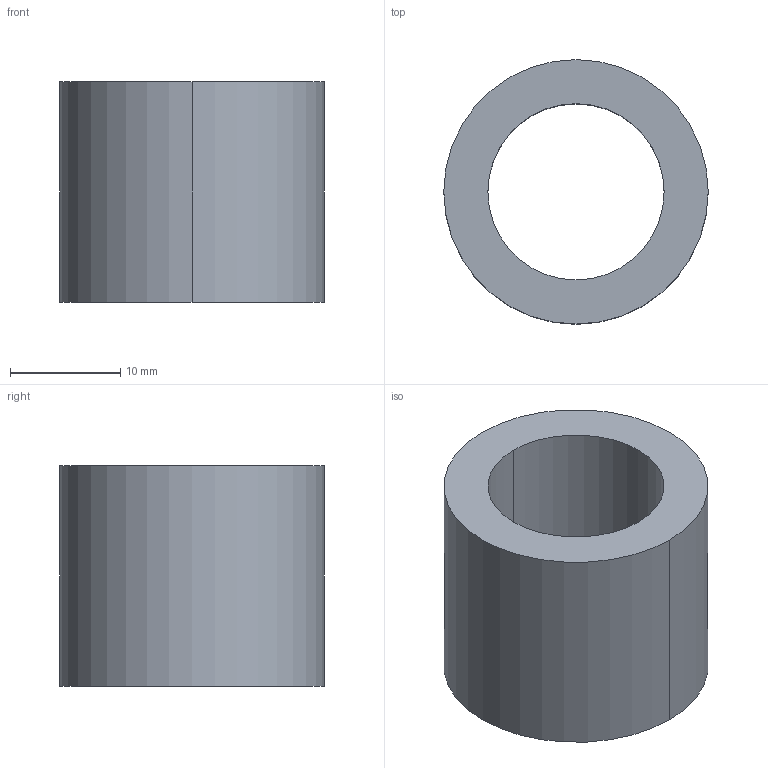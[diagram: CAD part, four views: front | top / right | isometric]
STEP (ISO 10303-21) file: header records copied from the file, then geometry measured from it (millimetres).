
FILE_DESCRIPTION(/* description */ (''),/* implementation_level */ '2;1');
FILE_NAME(/* name */ '3d_tgbm16-20_00321_r00.stp',/* time_stamp */ '2011-01-10T14:09:03+09:00',/* author */ ('MISUMI'),/* organization */ (''),/* preprocessor_version */ 'ST-DEVELOPER v11',/* originating_system */ 'UGS - NX 5.0',/* authorisation */ '');
FILE_SCHEMA (('CONFIG_CONTROL_DESIGN'));
Length unit declared in the file: millimetre
Products named in the file (1): 3d_tgbm16-20_00321_r00
Bounding box: 24 x 24 x 20 mm (x, y, z)
Volume: 5026.5 mm3; surface area: 3015.9 mm2
Topology: 1 solids, 1 shells, 6 faces, 12 edges, 8 vertices
Faces by surface type: cylinder 4, plane 2
Entity records: 254 total; most frequent: DIRECTION 34, CARTESIAN_POINT 27, ORIENTED_EDGE 24, AXIS2_PLACEMENT_3D 15, EDGE_CURVE 12, EDGE_LOOP 8, CIRCLE 8, VERTEX_POINT 8
